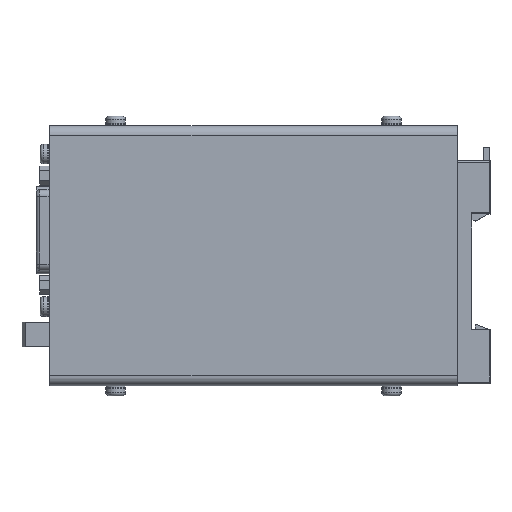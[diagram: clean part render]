
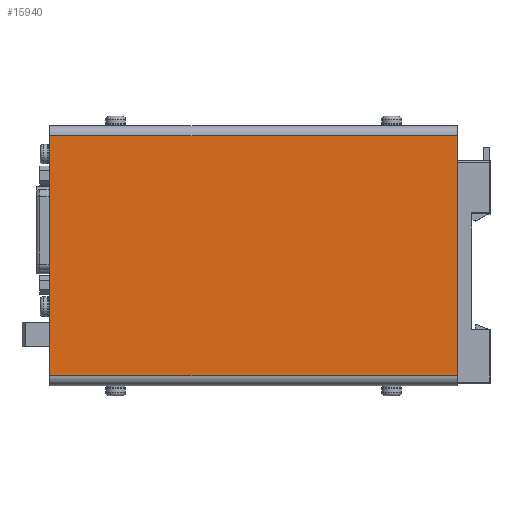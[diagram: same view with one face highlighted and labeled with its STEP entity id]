
A CAD part, top view. The second image highlights one B-rep face of the part: STEP entity #15940.
In plain terms, the highlighted planar face has unit normal (0, 0, 1).
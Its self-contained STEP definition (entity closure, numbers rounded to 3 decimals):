
#1093=PLANE('',#17251);
#2006=FACE_OUTER_BOUND('',#3010,.T.);
#3010=EDGE_LOOP('',(#13926,#13927,#13928,#13929));
#3556=LINE('',#22953,#4961);
#4412=LINE('',#26806,#5817);
#4416=LINE('',#26817,#5821);
#4419=LINE('',#26828,#5824);
#4961=VECTOR('',#18694,10.);
#5817=VECTOR('',#21166,10.);
#5821=VECTOR('',#21182,10.);
#5824=VECTOR('',#21201,10.);
#6777=VERTEX_POINT('',#22943);
#6780=VERTEX_POINT('',#22951);
#7629=VERTEX_POINT('',#26805);
#7630=VERTEX_POINT('',#26815);
#8390=EDGE_CURVE('',#6780,#6777,#3556,.T.);
#9720=EDGE_CURVE('',#7629,#6777,#4412,.T.);
#9726=EDGE_CURVE('',#6780,#7630,#4416,.T.);
#9731=EDGE_CURVE('',#7629,#7630,#4419,.T.);
#13926=ORIENTED_EDGE('',*,*,#9720,.T.);
#13927=ORIENTED_EDGE('',*,*,#8390,.F.);
#13928=ORIENTED_EDGE('',*,*,#9726,.T.);
#13929=ORIENTED_EDGE('',*,*,#9731,.F.);
#15940=ADVANCED_FACE('',(#2006),#1093,.T.);
#17251=AXIS2_PLACEMENT_3D('',#26829,#21202,#21203);
#18694=DIRECTION('',(0.,-1.,0.));
#21166=DIRECTION('',(1.,0.,0.));
#21182=DIRECTION('',(-1.,0.,0.));
#21201=DIRECTION('',(0.,1.,0.));
#21202=DIRECTION('center_axis',(0.,0.,1.));
#21203=DIRECTION('ref_axis',(1.,0.,0.));
#22943=CARTESIAN_POINT('',(62.,-36.55,2.));
#22951=CARTESIAN_POINT('',(62.,36.55,2.));
#22953=CARTESIAN_POINT('',(62.,39.55,2.));
#26805=CARTESIAN_POINT('',(-62.,-36.55,2.));
#26806=CARTESIAN_POINT('',(-31.,-36.55,2.));
#26815=CARTESIAN_POINT('',(-62.,36.55,2.));
#26817=CARTESIAN_POINT('',(31.,36.55,2.));
#26828=CARTESIAN_POINT('',(-62.,-39.55,2.));
#26829=CARTESIAN_POINT('Origin',(0.,0.,2.));
